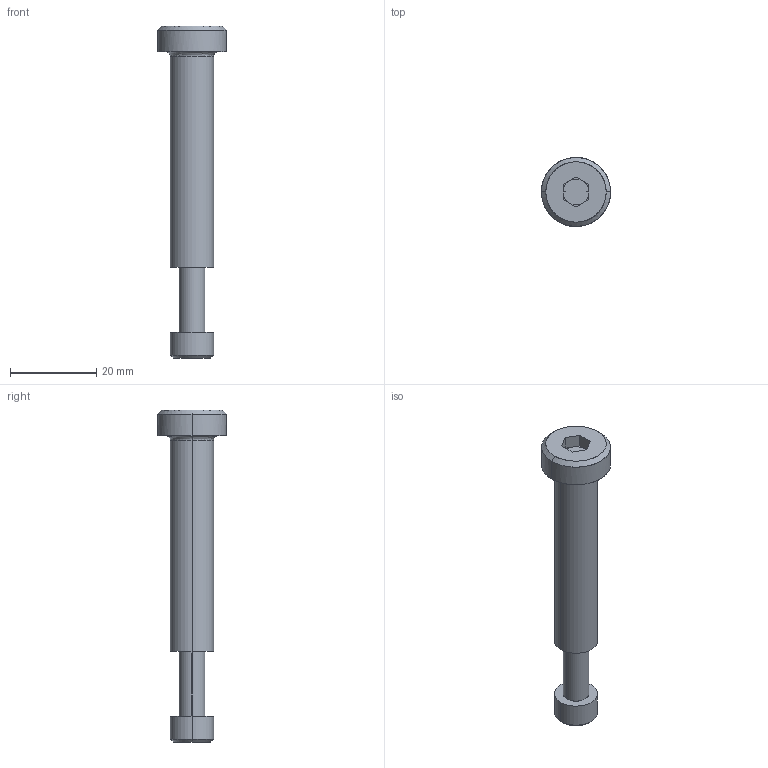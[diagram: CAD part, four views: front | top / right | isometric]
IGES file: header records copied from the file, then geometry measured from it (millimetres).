
Global section: file name: E:\UnigraphicsGraphicData\MISUMI_PRESS-PARTS\IGES\3d_sbtk10-50-30_05163_r00.igs; native system: NX V5.0; preprocessor: UGS NX IGES V5.0; author: MISUMI; date: 20110105.162501; units: millimetre
Bounding box: 16 x 16 x 77 mm (x, y, z)
Surface area: 3654.8 mm2 (no closed solid volume)
Topology: 0 solids, 0 shells, 46 faces, 264 edges, 260 vertices
Faces by surface type: bspline 46
